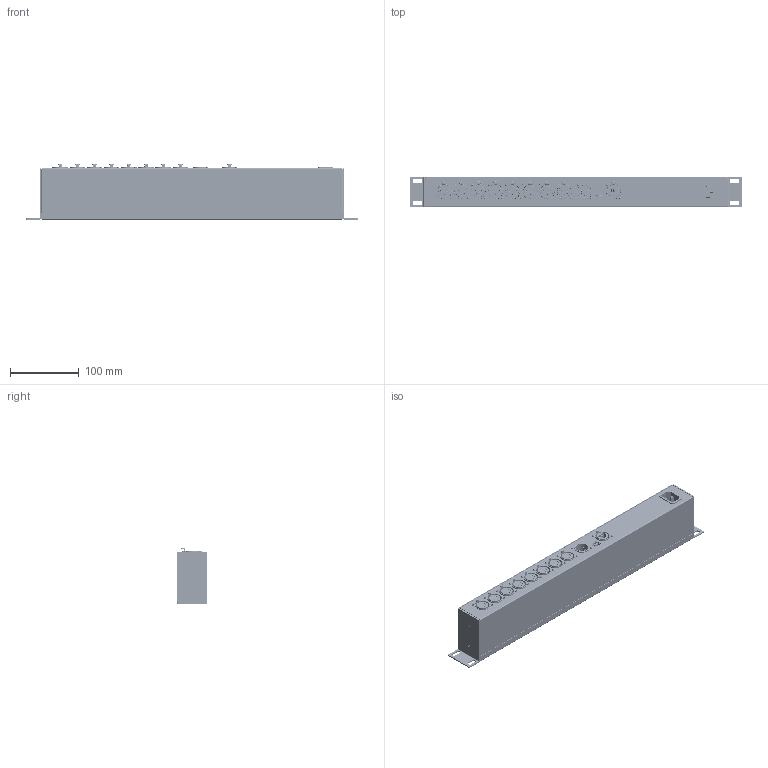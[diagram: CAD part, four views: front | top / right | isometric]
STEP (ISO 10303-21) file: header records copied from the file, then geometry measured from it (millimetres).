
FILE_DESCRIPTION(('FreeCAD Model'),'2;1');
FILE_NAME('E:/Holger/MADRIX_2019/scenes/edits/export_step/_aus_freecad/luna8_freecad_export6dd_step_with_colors.step','2019-09-11T15:42:42',('Author' ),(''),'Open CASCADE STEP processor 7.3','FreeCAD','Unknown');
FILE_SCHEMA(('AUTOMOTIVE_DESIGN { 1 0 10303 214 1 1 1 1 }'));
Length unit declared in the file: millimetre
Products named in the file (82): l4_green_stripes_form; l4_front_black_form; plug_socket_metal_tab_nurbs000; plug_socket_metal_tab_nurbs001; plug_socket_metal_tab_nurbs002; plug_socket_metal_tab_nurbs003; plug_socket_metal_tab_nurbs004; plug_socket_metal_ring_nurbs000; plug_socket_ring_black_nurbs001; plug_socket_ring_black_nurbs002; plug_socket_ring_black_nurbs003; plug_socket_ring_black_nurbs004; Fillet_plug_socket_ring_black; Fillet_plug_socket_black001; Fillet_plug_socket_black004; Fillet_plug_socket_black005; Fillet_plug_socket_black003; Fillet_plug_socket_black002; ethernet_copper_nurbs; plug_contact_copper_nurbs; Fillet_plug_contact_copper006; Fillet_plug_contact_copper007; Fillet_plug_contact_copper008; Fillet_plug_contact_copper009; Fillet_plug_contact_copper010; Cut024_screw_black002; Cut024_screw_black000; Cut024_screw_black001; Cut024_screw_black003; Cut024_screw_black004; Cut024_screw_black005; Cut024_screw_black006; plug_contact_metal_nurbs; power_plug_black_form; power_plug_metal_form; led_form; text_front_form; plug_socket_metal_tab_nurbs005; plug_socket_metal_tab_nurbs006; plug_socket_metal_tab_nurbs007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
Bounding box: 484.01 x 44.11 x 81.35 mm (x, y, z)
Volume: 34219.6 mm3; surface area: 341243.1 mm2
Topology: 42 solids, 973 shells, 27892 faces, 53793 edges, 34959 vertices
Faces by surface type: plane 27037, bspline 640, torus 102, cylinder 83, revolution 30
Full cylindrical faces by diameter (mm): 1.6 x40, 2 x5, 3 x20, 5 x7, 16.8 x9, 18.8 x1, 22 x1
Entity records: 1486329 total; most frequent: CARTESIAN_POINT 380081, DIRECTION 153982, LINE 98232, VECTOR 98232, ORIENTED_EDGE 85680, PCURVE 85680, DEFINITIONAL_REPRESENTATION 85680, EDGE_CURVE 51080
